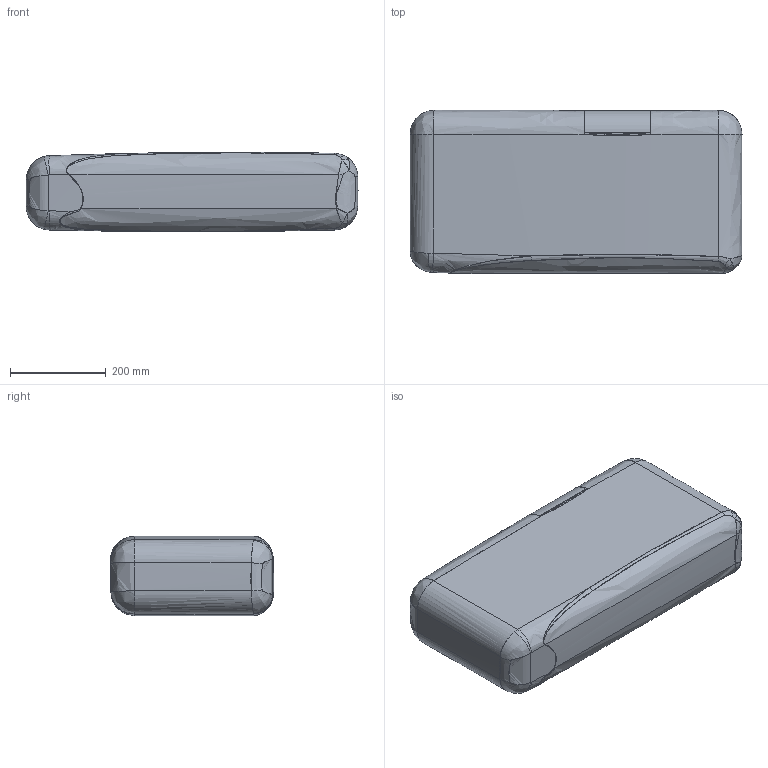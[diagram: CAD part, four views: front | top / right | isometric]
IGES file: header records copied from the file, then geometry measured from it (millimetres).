
Start section: SolidWorks IGES file using NURBS representation for surfaces
Global section: file name: D:\VICCARBE\PRODUCTOS\19-MASS\04-MODELADOS (PLANOS)\SOLIDWORKS\PIEZAS\Cushions\01-IGES\VICCARBE_Mass_cushion_35.IGS; native system: SolidWorks 2009; preprocessor: SolidWorks 2009; author: RUBEN; date: 110908.163231; units: millimetre
Bounding box: 692.88 x 340.72 x 165.99 mm (x, y, z)
Surface area: 701232.2 mm2 (no closed solid volume)
Topology: 0 solids, 0 shells, 64 faces, 848 edges, 846 vertices
Faces by surface type: bspline 64
